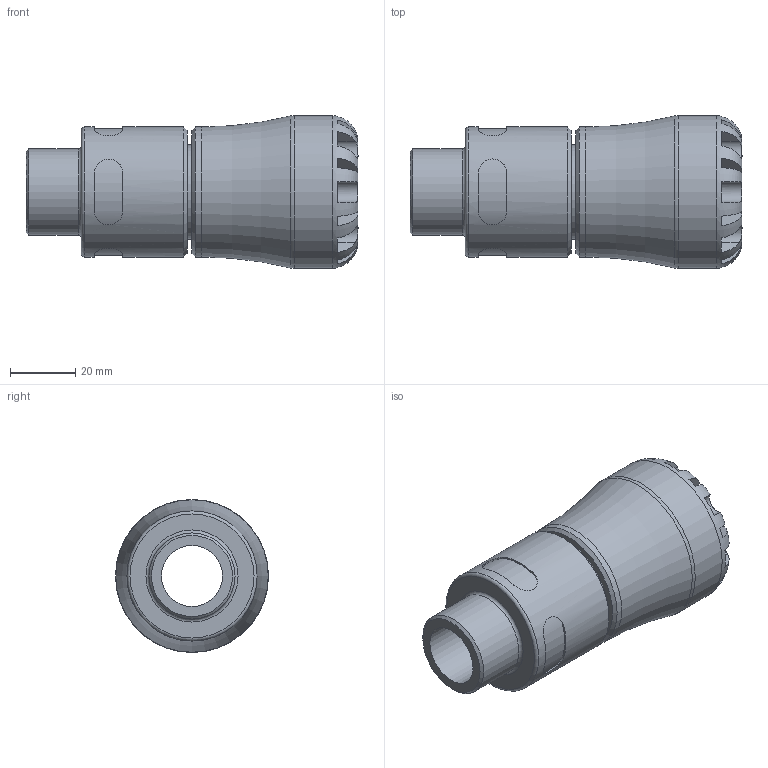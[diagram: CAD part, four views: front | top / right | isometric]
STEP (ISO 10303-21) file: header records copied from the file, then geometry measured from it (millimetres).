
FILE_DESCRIPTION(/* description */ ('PLASSON MALE ADAPTOR 25X3/4" SERIES 1'),/* implementation_level */ '2;1');
FILE_NAME(/* name */ 'C:\Dropbox\KIMPROJECTS-Inventor 2019\99-16-3568-Processing\S1\10N20\stp\10N200025007_10N2G0025007.stp',/* time_stamp */ '2024-03-12T13:19:12+01:00',/* author */ ('KIM'),/* organization */ (''),/* preprocessor_version */ 'ST-DEVELOPER v17.2',/* originating_system */ 'Autodesk Inventor 2019',/* authorisation */ '');
FILE_SCHEMA (('AUTOMOTIVE_DESIGN { 1 0 10303 214 3 1 1 }'));
Length unit declared in the file: millimetre
Products named in the file (1): 10N200025007_10N2G0025007
Bounding box: 102 x 47 x 47 mm (x, y, z)
Volume: 86038.1 mm3; surface area: 23731.6 mm2
Topology: 1 solids, 1 shells, 106 faces, 279 edges, 182 vertices
Faces by surface type: plane 62, cylinder 35, torus 5, cone 4
Full cylindrical faces by diameter (mm): 18.75 x1, 25 x1, 26.441 x1, 29 x1, 39.95 x2, 47 x1
Entity records: 4224 total; most frequent: CARTESIAN_POINT 1490, ORIENTED_EDGE 558, DIRECTION 552, EDGE_CURVE 279, AXIS2_PLACEMENT_3D 230, VERTEX_POINT 182, CIRCLE 123, EDGE_LOOP 115
